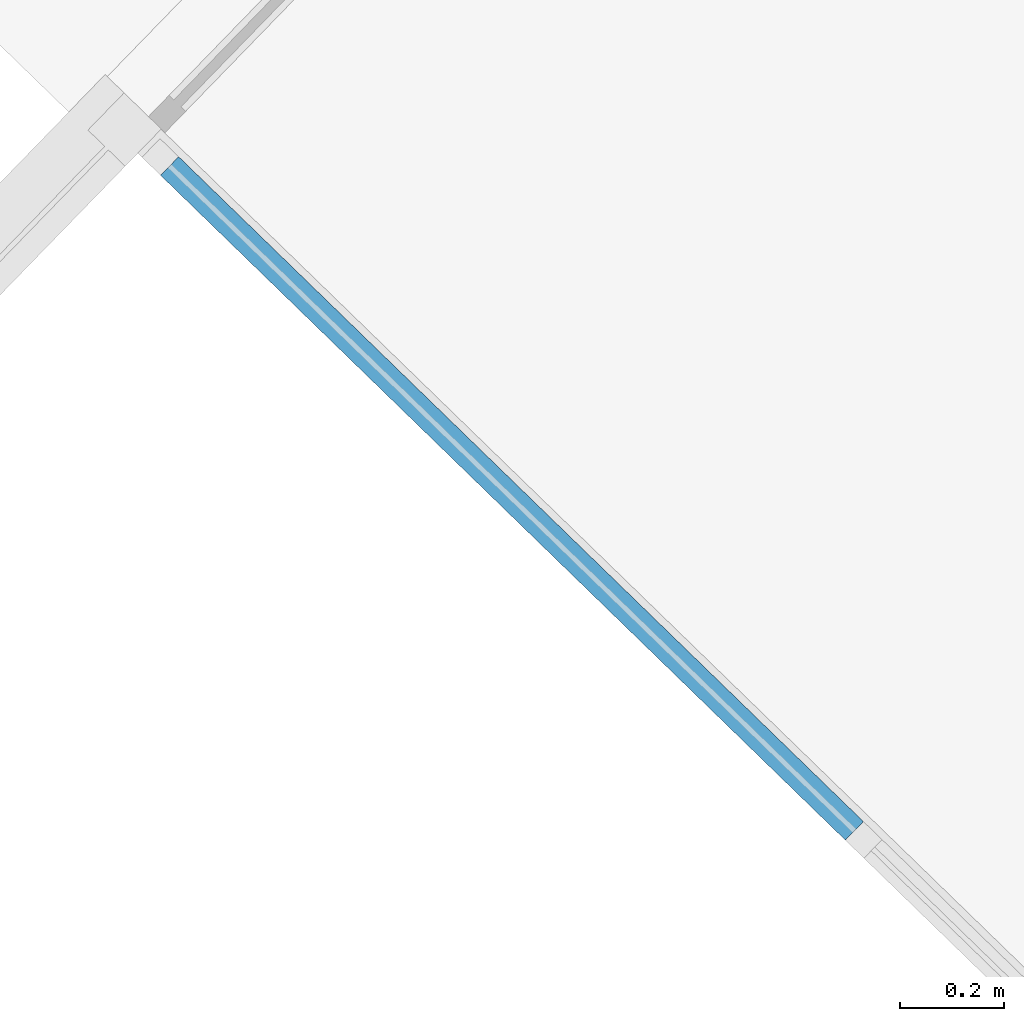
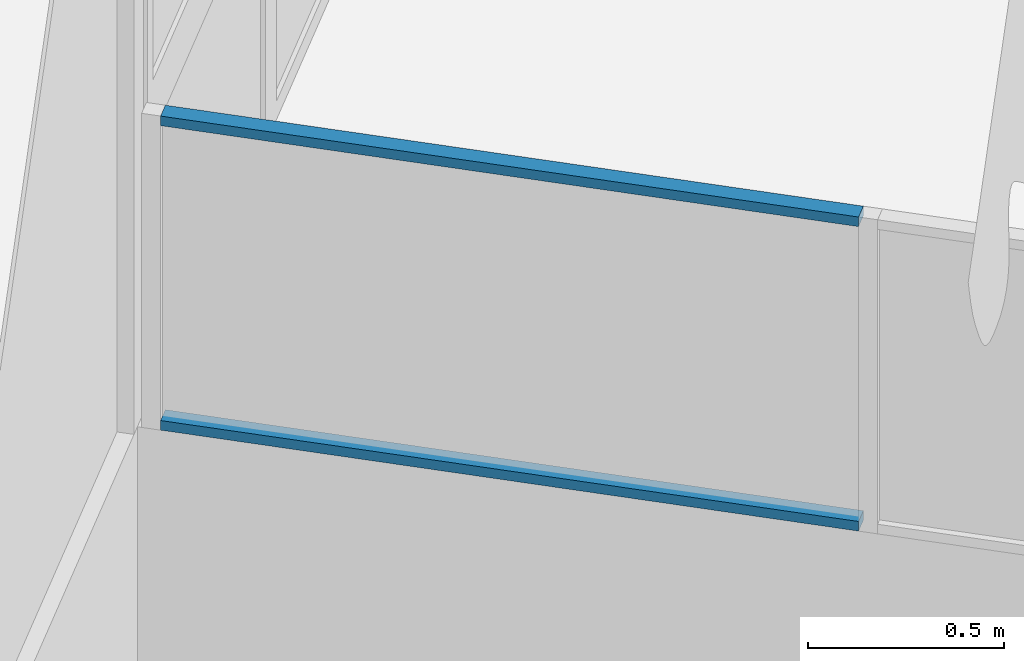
# One storey, part 5 of 37: 2 members, 1 element without a shape of its own.
"""IFC2X3 building model written with IfcOpenShell, lengths in centimetres."""

from ifc_helpers import new_model, entity, si_unit, converted_unit, derived_unit, direction, frame, frame_2d, origin, place, context, subcontext, project, spatial, rectangle, extrude, material, type_object, element, aggregate, save


model = new_model("IFC2X3")

# Units and contexts
model_context = context("Model", 3, precision=0.001, world=origin(), true_north=direction((0.717475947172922, 0.696583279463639)))
body_context = subcontext(model_context, "Body", "Model", "MODEL_VIEW")
ifc_project = project(units=[si_unit("LENGTHUNIT", "METRE", prefix="CENTI"), si_unit("AREAUNIT", "SQUARE_METRE"), si_unit("VOLUMEUNIT", "CUBIC_METRE"), converted_unit("PLANEANGLEUNIT", "DEGREE", entity("IfcRatioMeasure", 0.0174532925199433), si_unit("PLANEANGLEUNIT", "RADIAN"), dimensions=[0, 0, 0, 0, 0, 0, 0]), si_unit("MASSUNIT", "GRAM", prefix="KILO"), derived_unit("MASSDENSITYUNIT", [(si_unit("MASSUNIT", "GRAM", prefix="KILO"), 1), (si_unit("LENGTHUNIT", "METRE"), -3)]), si_unit("TIMEUNIT", "SECOND"), si_unit("FREQUENCYUNIT", "HERTZ"), si_unit("THERMODYNAMICTEMPERATUREUNIT", "DEGREE_CELSIUS"), derived_unit("THERMALTRANSMITTANCEUNIT", [(si_unit("MASSUNIT", "GRAM", prefix="KILO"), 1), (si_unit("THERMODYNAMICTEMPERATUREUNIT", "KELVIN"), -1), (si_unit("TIMEUNIT", "SECOND"), -3)]), derived_unit("VOLUMETRICFLOWRATEUNIT", [(si_unit("LENGTHUNIT", "METRE"), 3), (si_unit("TIMEUNIT", "SECOND"), -1)]), si_unit("ELECTRICCURRENTUNIT", "AMPERE"), si_unit("ELECTRICVOLTAGEUNIT", "VOLT"), si_unit("POWERUNIT", "WATT"), si_unit("FORCEUNIT", "NEWTON", prefix="KILO"), si_unit("ILLUMINANCEUNIT", "LUX"), si_unit("LUMINOUSFLUXUNIT", "LUMEN"), si_unit("LUMINOUSINTENSITYUNIT", "CANDELA"), derived_unit("USERDEFINED", [(si_unit("MASSUNIT", "GRAM", prefix="KILO"), -1), (si_unit("LENGTHUNIT", "METRE"), -2), (si_unit("TIMEUNIT", "SECOND"), 3), (si_unit("LUMINOUSFLUXUNIT", "LUMEN"), 1)]), derived_unit("LINEARVELOCITYUNIT", [(si_unit("LENGTHUNIT", "METRE"), 1), (si_unit("TIMEUNIT", "SECOND"), -1)]), si_unit("PRESSUREUNIT", "PASCAL"), derived_unit("USERDEFINED", [(si_unit("LENGTHUNIT", "METRE"), -2), (si_unit("MASSUNIT", "GRAM", prefix="KILO"), 1), (si_unit("TIMEUNIT", "SECOND"), -2)])], contexts=[model_context])

# Site, building, storey
site_placement = place(None, frame((0.0, 0.0, 0.0), z_axis=(0.0, 0.0, 1.0), x_axis=(0.696583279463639, 0.717475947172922, 0.0)))
site = spatial("IfcSite", under=ifc_project, at=site_placement, Name="Surface", CompositionType="ELEMENT")
building_placement = place(site_placement, origin())
building = spatial("IfcBuilding", under=site, at=building_placement, CompositionType="ELEMENT")
storey_placement = place(building_placement, origin())
storey = spatial("IfcBuildingStorey", under=building, at=storey_placement, Name="Nivel 0.00", CompositionType="ELEMENT", Elevation=0.0)

# Curtain wall, members
curtain_wall_type = type_object("IfcCurtainWallType", Name="Curtain Wall:REJA_BAJA_100mm", PredefinedType="NOTDEFINED")
curtain_wall_placement = place(storey_placement, origin())
curtain_wall = element("IfcCurtainWall", 1, at=curtain_wall_placement, inside=storey, type_object=curtain_wall_type, Name="Curtain Wall:REJA_BAJA_100mm", ObjectType="Curtain Wall:REJA_BAJA_100mm")
ifc_material = material(Name="Aluminum")
member_1_placement = place(curtain_wall_placement, origin())
member_1 = element("IfcMember", 2, at=member_1_placement, material=ifc_material, Name="Curtain Wall:REJA_BAJA_100mm", ObjectType="Curtain Wall:REJA_BAJA_100mm", context=body_context, shape_type="SweptSolid", body=[
    extrude(rectangle(XDim=3.00000000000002, YDim=5.00000000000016, at=frame_2d((2.70894418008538e-14, 0.0), x_axis=(1.0, 0.0))), frame((1796.6277064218, 872.72563048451, 246.5), z_axis=(0.0, 1.0, 0.0), x_axis=(0.0, 0.0, -1.0)), (0.0, 0.0, 1.0), 184.0),
])
member_2_placement = place(curtain_wall_placement, origin())
member_2 = element("IfcMember", 3, at=member_2_placement, material=ifc_material, Name="Curtain Wall:REJA_BAJA_100mm", ObjectType="Curtain Wall:REJA_BAJA_100mm", context=body_context, shape_type="SweptSolid", body=[
    extrude(rectangle(XDim=2.99999999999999, YDim=5.00000000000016, at=frame_2d((-1.35447209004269e-14, 0.0), x_axis=(1.0, 0.0))), frame((1796.6277064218, 1056.72563048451, 151.5), z_axis=(0.0, -1.0, 0.0), x_axis=(0.0, 0.0, -1.0)), (0.0, 0.0, 1.0), 184.0),
])
aggregate(curtain_wall, [member_1, member_2])

save(model, "model.ifc")
